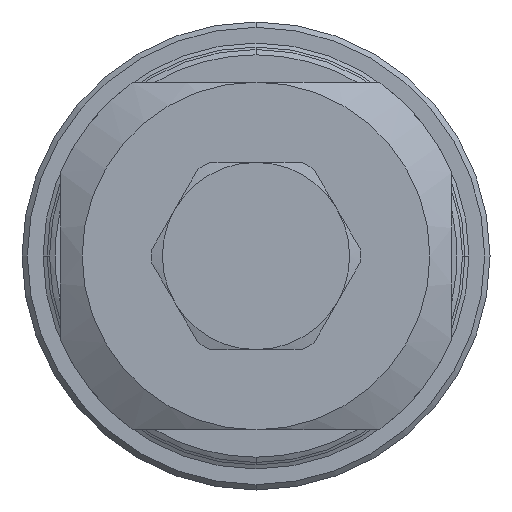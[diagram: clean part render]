
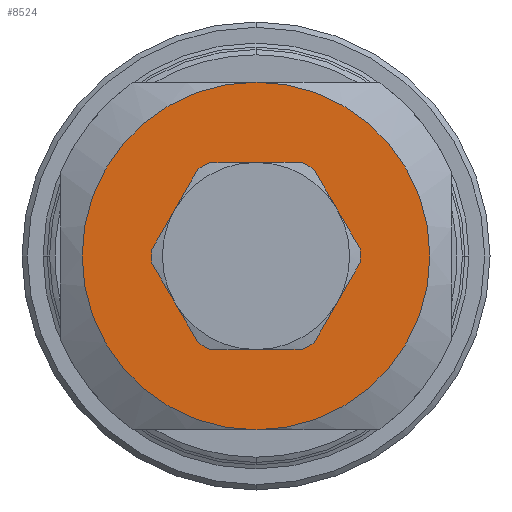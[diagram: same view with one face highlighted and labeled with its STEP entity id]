
A CAD part, front view. The second image highlights one B-rep face of the part: STEP entity #8524.
In plain terms, the highlighted planar face has unit normal (0, -1, 0).
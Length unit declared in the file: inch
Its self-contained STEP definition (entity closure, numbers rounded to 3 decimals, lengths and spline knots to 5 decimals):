
#114 = ORIENTED_EDGE ( 'NONE', *, *, #1332, .T. ) ;
#538 = ORIENTED_EDGE ( 'NONE', *, *, #10596, .T. ) ;
#658 = DIRECTION ( 'NONE',  ( 0., 1., 0. ) ) ;
#801 = PLANE ( 'NONE',  #3189 ) ;
#937 = CARTESIAN_POINT ( 'NONE',  ( 0.37958, -1.146, -0.21754 ) ) ;
#1216 = ORIENTED_EDGE ( 'NONE', *, *, #9236, .T. ) ;
#1262 = AXIS2_PLACEMENT_3D ( 'NONE', #7751, #658, #5584 ) ;
#1332 = EDGE_CURVE ( 'NONE', #12295, #6097, #12046, .T. ) ;
#1587 = CARTESIAN_POINT ( 'NONE',  ( 0., -1.146, 0. ) ) ;
#1654 = AXIS2_PLACEMENT_3D ( 'NONE', #11825, #7809, #3842 ) ;
#1773 = DIRECTION ( 'NONE',  ( 0., 0., -1. ) ) ;
#2827 = CIRCLE ( 'NONE', #7680, 0.4375 ) ;
#2912 = CIRCLE ( 'NONE', #3539, 0.4375 ) ;
#3094 = EDGE_CURVE ( 'NONE', #3702, #4928, #2912, .T. ) ;
#3189 = AXIS2_PLACEMENT_3D ( 'NONE', #12104, #8834, #1773 ) ;
#3277 = EDGE_CURVE ( 'NONE', #8056, #10927, #12401, .T. ) ;
#3473 = DIRECTION ( 'NONE',  ( 0., 1., 0. ) ) ;
#3539 = AXIS2_PLACEMENT_3D ( 'NONE', #4074, #6503, #9101 ) ;
#3590 = CARTESIAN_POINT ( 'NONE',  ( -0.37958, -1.146, 0.21754 ) ) ;
#3702 = VERTEX_POINT ( 'NONE', #5961 ) ;
#3842 = DIRECTION ( 'NONE',  ( -0.003, 0., 1. ) ) ;
#3926 = FACE_BOUND ( 'NONE', #5507, .T. ) ;
#4074 = CARTESIAN_POINT ( 'NONE',  ( 0., -1.146, 0. ) ) ;
#4302 = CARTESIAN_POINT ( 'NONE',  ( 0., -1.146, 0.8125 ) ) ;
#4339 = DIRECTION ( 'NONE',  ( 0., 1., 0. ) ) ;
#4427 = CARTESIAN_POINT ( 'NONE',  ( 0., -1.146, -0.8125 ) ) ;
#4440 = DIRECTION ( 'NONE',  ( -0.003, 0., 1. ) ) ;
#4473 = AXIS2_PLACEMENT_3D ( 'NONE', #9366, #3473, #8509 ) ;
#4599 = AXIS2_PLACEMENT_3D ( 'NONE', #12938, #7934, #11948 ) ;
#4928 = VERTEX_POINT ( 'NONE', #3590 ) ;
#5414 = CARTESIAN_POINT ( 'NONE',  ( 0., -1.146, 0. ) ) ;
#5507 = EDGE_LOOP ( 'NONE', ( #11099, #5790, #10217, #1216, #538, #114 ) ) ;
#5584 = DIRECTION ( 'NONE',  ( 0., 0., 1. ) ) ;
#5658 = CIRCLE ( 'NONE', #1654, 0.4375 ) ;
#5790 = ORIENTED_EDGE ( 'NONE', *, *, #7479, .T. ) ;
#5809 = EDGE_CURVE ( 'NONE', #6097, #6135, #2827, .T. ) ;
#5961 = CARTESIAN_POINT ( 'NONE',  ( -0.37818, -1.146, -0.21996 ) ) ;
#6046 = CIRCLE ( 'NONE', #7931, 0.4375 ) ;
#6097 = VERTEX_POINT ( 'NONE', #937 ) ;
#6135 = VERTEX_POINT ( 'NONE', #10721 ) ;
#6328 = DIRECTION ( 'NONE',  ( -0.003, 0., 1. ) ) ;
#6503 = DIRECTION ( 'NONE',  ( 0., 1., 0. ) ) ;
#6604 = VERTEX_POINT ( 'NONE', #10506 ) ;
#7157 = ORIENTED_EDGE ( 'NONE', *, *, #3277, .F. ) ;
#7479 = EDGE_CURVE ( 'NONE', #6135, #3702, #10781, .T. ) ;
#7680 = AXIS2_PLACEMENT_3D ( 'NONE', #1587, #10560, #12321 ) ;
#7751 = CARTESIAN_POINT ( 'NONE',  ( 0., -1.146, 0. ) ) ;
#7809 = DIRECTION ( 'NONE',  ( 0., 1., 0. ) ) ;
#7855 = CARTESIAN_POINT ( 'NONE',  ( 0.37818, -1.146, 0.21996 ) ) ;
#7931 = AXIS2_PLACEMENT_3D ( 'NONE', #8605, #11439, #4440 ) ;
#7934 = DIRECTION ( 'NONE',  ( 0., 1., 0. ) ) ;
#8056 = VERTEX_POINT ( 'NONE', #4302 ) ;
#8509 = DIRECTION ( 'NONE',  ( -0.003, 0., 1. ) ) ;
#8524 = ADVANCED_FACE ( 'NONE', ( #3926, #11914 ), #801, .T. ) ;
#8605 = CARTESIAN_POINT ( 'NONE',  ( 0., -1.146, 0. ) ) ;
#8834 = DIRECTION ( 'NONE',  ( 0., -1., 0. ) ) ;
#9101 = DIRECTION ( 'NONE',  ( -0.003, 0., 1. ) ) ;
#9165 = ORIENTED_EDGE ( 'NONE', *, *, #10683, .F. ) ;
#9236 = EDGE_CURVE ( 'NONE', #4928, #6604, #6046, .T. ) ;
#9366 = CARTESIAN_POINT ( 'NONE',  ( 0., -1.146, 0. ) ) ;
#10217 = ORIENTED_EDGE ( 'NONE', *, *, #3094, .T. ) ;
#10506 = CARTESIAN_POINT ( 'NONE',  ( -0.0014, -1.146, 0.4375 ) ) ;
#10560 = DIRECTION ( 'NONE',  ( 0., 1., 0. ) ) ;
#10596 = EDGE_CURVE ( 'NONE', #6604, #12295, #5658, .T. ) ;
#10683 = EDGE_CURVE ( 'NONE', #10927, #8056, #11552, .T. ) ;
#10721 = CARTESIAN_POINT ( 'NONE',  ( 0.0014, -1.146, -0.4375 ) ) ;
#10781 = CIRCLE ( 'NONE', #12657, 0.4375 ) ;
#10927 = VERTEX_POINT ( 'NONE', #4427 ) ;
#11099 = ORIENTED_EDGE ( 'NONE', *, *, #5809, .T. ) ;
#11439 = DIRECTION ( 'NONE',  ( 0., 1., 0. ) ) ;
#11552 = CIRCLE ( 'NONE', #4599, 0.8125 ) ;
#11721 = EDGE_LOOP ( 'NONE', ( #9165, #7157 ) ) ;
#11825 = CARTESIAN_POINT ( 'NONE',  ( 0., -1.146, 0. ) ) ;
#11914 = FACE_OUTER_BOUND ( 'NONE', #11721, .T. ) ;
#11948 = DIRECTION ( 'NONE',  ( 0., 0., 1. ) ) ;
#12046 = CIRCLE ( 'NONE', #4473, 0.4375 ) ;
#12104 = CARTESIAN_POINT ( 'NONE',  ( 0., -1.146, 0. ) ) ;
#12295 = VERTEX_POINT ( 'NONE', #7855 ) ;
#12321 = DIRECTION ( 'NONE',  ( -0.003, 0., 1. ) ) ;
#12401 = CIRCLE ( 'NONE', #1262, 0.8125 ) ;
#12657 = AXIS2_PLACEMENT_3D ( 'NONE', #5414, #4339, #6328 ) ;
#12938 = CARTESIAN_POINT ( 'NONE',  ( 0., -1.146, 0. ) ) ;
